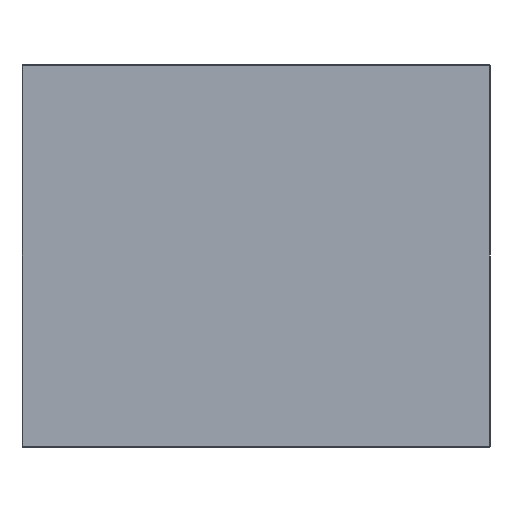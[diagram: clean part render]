
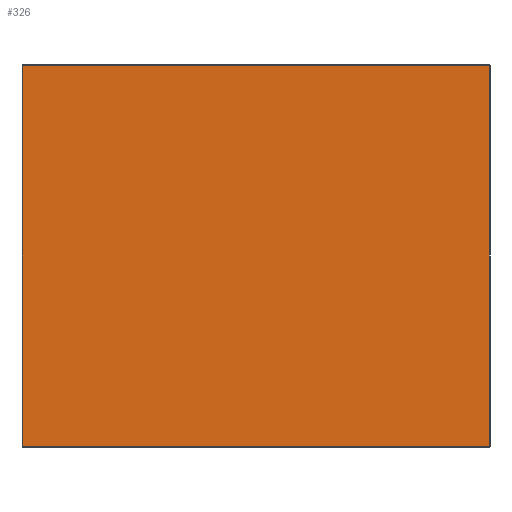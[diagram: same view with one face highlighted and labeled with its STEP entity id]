
A CAD part, front view. The second image highlights one B-rep face of the part: STEP entity #326.
In plain terms, the highlighted planar face has unit normal (0, -1, 0).
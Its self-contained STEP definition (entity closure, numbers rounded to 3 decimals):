
#10 = EDGE_CURVE ( 'NONE', #540, #266, #413, .T. ) ;
#19 = EDGE_CURVE ( 'NONE', #281, #494, #427, .T. ) ;
#23 = FACE_OUTER_BOUND ( 'NONE', #424, .T. ) ;
#56 = ORIENTED_EDGE ( 'NONE', *, *, #356, .T. ) ;
#60 = PLANE ( 'NONE',  #464 ) ;
#71 = DIRECTION ( 'NONE',  ( 0., 0., -1. ) ) ;
#73 = CARTESIAN_POINT ( 'NONE',  ( 0., 0., -222. ) ) ;
#74 = DIRECTION ( 'NONE',  ( 0., 0., 1. ) ) ;
#76 = DIRECTION ( 'NONE',  ( 0., 0., 1. ) ) ;
#108 = CARTESIAN_POINT ( 'NONE',  ( 272., 0., 0. ) ) ;
#150 = ORIENTED_EDGE ( 'NONE', *, *, #19, .T. ) ;
#153 = CARTESIAN_POINT ( 'NONE',  ( 0., 0., 0. ) ) ;
#177 = LINE ( 'NONE', #291, #431 ) ;
#185 = ORIENTED_EDGE ( 'NONE', *, *, #10, .T. ) ;
#249 = CARTESIAN_POINT ( 'NONE',  ( -272., 0., -222. ) ) ;
#266 = VERTEX_POINT ( 'NONE', #497 ) ;
#281 = VERTEX_POINT ( 'NONE', #585 ) ;
#290 = VECTOR ( 'NONE', #74, 1000. ) ;
#291 = CARTESIAN_POINT ( 'NONE',  ( -272., 0., 0. ) ) ;
#326 = ADVANCED_FACE ( 'NONE', ( #23 ), #60, .F. ) ;
#356 = EDGE_CURVE ( 'NONE', #494, #540, #177, .T. ) ;
#398 = EDGE_CURVE ( 'NONE', #266, #281, #548, .T. ) ;
#413 = LINE ( 'NONE', #73, #450 ) ;
#424 = EDGE_LOOP ( 'NONE', ( #607, #150, #56, #185 ) ) ;
#427 = LINE ( 'NONE', #506, #457 ) ;
#431 = VECTOR ( 'NONE', #71, 1000. ) ;
#450 = VECTOR ( 'NONE', #615, 1000. ) ;
#457 = VECTOR ( 'NONE', #611, 1000. ) ;
#464 = AXIS2_PLACEMENT_3D ( 'NONE', #153, #600, #76 ) ;
#494 = VERTEX_POINT ( 'NONE', #537 ) ;
#497 = CARTESIAN_POINT ( 'NONE',  ( 272., 0., -222. ) ) ;
#506 = CARTESIAN_POINT ( 'NONE',  ( 0., 0., 222. ) ) ;
#537 = CARTESIAN_POINT ( 'NONE',  ( -272., 0., 222. ) ) ;
#540 = VERTEX_POINT ( 'NONE', #249 ) ;
#548 = LINE ( 'NONE', #108, #290 ) ;
#585 = CARTESIAN_POINT ( 'NONE',  ( 272., 0., 222. ) ) ;
#600 = DIRECTION ( 'NONE',  ( 0., 1., 0. ) ) ;
#607 = ORIENTED_EDGE ( 'NONE', *, *, #398, .T. ) ;
#611 = DIRECTION ( 'NONE',  ( -1., 0., 0. ) ) ;
#615 = DIRECTION ( 'NONE',  ( 1., 0., 0. ) ) ;
